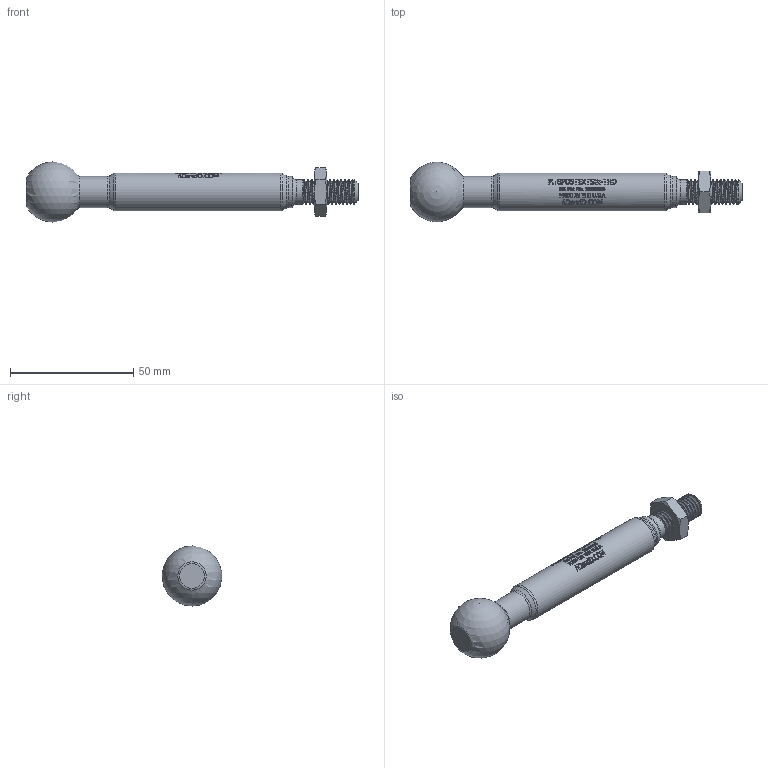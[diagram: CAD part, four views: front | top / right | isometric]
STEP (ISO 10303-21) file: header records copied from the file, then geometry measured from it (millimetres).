
FILE_DESCRIPTION(/* description */ (''),/* implementation_level */ '2;1');
FILE_NAME(/* name */ 'C:\Users\Doug Biddinger\Desktop\THREADED POST UPDATES\PL-SPOSTEXT5IN-THD.stp',/* time_stamp */ '2019-02-28T15:05:36-05:00',/* author */ ('Doug Biddinger'),/* organization */ (''),/* preprocessor_version */ 'ST-DEVELOPER v17',/* originating_system */ 'Autodesk Inventor 2019',/* authorisation */ '');
FILE_SCHEMA (('CONFIG_CONTROL_DESIGN'));
Length unit declared in the file: inch
Products named in the file (4): PL-SPOST5IN-THD; 60032; 60107; 60002
Assembly tree (3 placements, depth 2):
  PL-SPOST5IN-THD
    60032
    60107
    60002
Bounding box: 134.72 x 24.18 x 24.36 mm (x, y, z)
Volume: 24508.4 mm3; surface area: 10394.1 mm2
Topology: 4 solids, 4 shells, 953 faces, 2611 edges, 1745 vertices
Faces by surface type: plane 421, bspline 380, cylinder 111, cone 30, torus 10, sphere 1
Full cylindrical faces by diameter (mm): 4.978 x1, 8.042 x2, 9 x2, 9.487 x1, 9.525 x1, 9.589 x1, 10 x17, 12.649 x1, 12.7 x1, 15.367 x1
Entity records: 45636 total; most frequent: CARTESIAN_POINT 23516, ORIENTED_EDGE 5214, DIRECTION 3451, EDGE_CURVE 2607, VERTEX_POINT 1745, LINE 1207, VECTOR 1207, AXIS2_PLACEMENT_3D 1122
